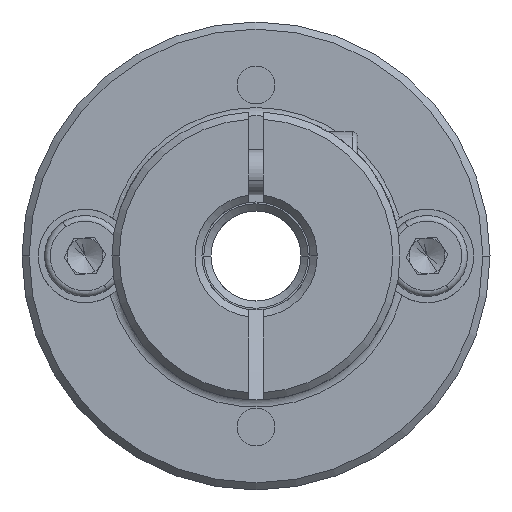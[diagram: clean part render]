
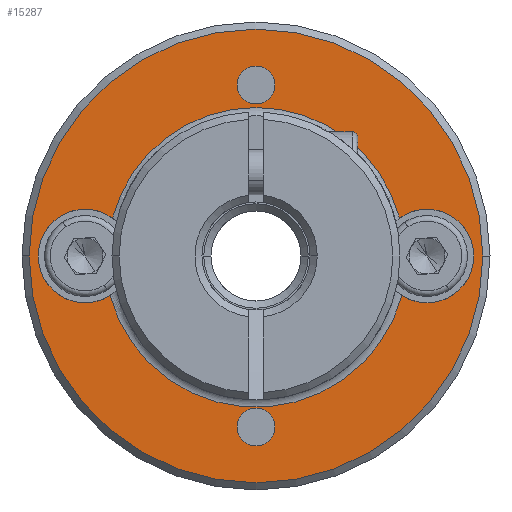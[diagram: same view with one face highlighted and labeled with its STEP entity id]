
A CAD part, front view. The second image highlights one B-rep face of the part: STEP entity #15287.
In plain terms, the highlighted planar face has unit normal (0, -1, 0).
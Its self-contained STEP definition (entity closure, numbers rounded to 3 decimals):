
#241 = CARTESIAN_POINT ( 'NONE',  ( -3.03, -8.355, 26. ) ) ;
#317 = AXIS2_PLACEMENT_3D ( 'NONE', #13250, #10317, #10182 ) ;
#384 = AXIS2_PLACEMENT_3D ( 'NONE', #17411, #4016, #14468 ) ;
#432 = CARTESIAN_POINT ( 'NONE',  ( -4.08, -8.355, 16.5 ) ) ;
#630 = AXIS2_PLACEMENT_3D ( 'NONE', #10789, #18132, #9402 ) ;
#796 = CIRCLE ( 'NONE', #14226, 1.05 ) ;
#1014 = PLANE ( 'NONE',  #3017 ) ;
#1163 = CARTESIAN_POINT ( 'NONE',  ( -1.98, -8.355, 35.5 ) ) ;
#1451 = VERTEX_POINT ( 'NONE', #432 ) ;
#2132 = CIRCLE ( 'NONE', #15676, 8.247 ) ;
#2546 = CARTESIAN_POINT ( 'NONE',  ( 6.47, -8.355, 26. ) ) ;
#2774 = EDGE_LOOP ( 'NONE', ( #6271, #6505 ) ) ;
#3017 = AXIS2_PLACEMENT_3D ( 'NONE', #5520, #17479, #7455 ) ;
#3380 = ORIENTED_EDGE ( 'NONE', *, *, #14569, .T. ) ;
#3596 = CARTESIAN_POINT ( 'NONE',  ( -3.03, -8.355, 26. ) ) ;
#3663 = DIRECTION ( 'NONE',  ( 1., 0., 0. ) ) ;
#3726 = ORIENTED_EDGE ( 'NONE', *, *, #14091, .T. ) ;
#4016 = DIRECTION ( 'NONE',  ( 0., -1., 0. ) ) ;
#4601 = DIRECTION ( 'NONE',  ( 1., 0., 0. ) ) ;
#4769 = CARTESIAN_POINT ( 'NONE',  ( -11.138, -8.355, 23.804 ) ) ;
#4794 = ORIENTED_EDGE ( 'NONE', *, *, #5720, .T. ) ;
#4857 = EDGE_CURVE ( 'NONE', #5175, #17098, #796, .T. ) ;
#4927 = DIRECTION ( 'NONE',  ( 1., 0., 0. ) ) ;
#5175 = VERTEX_POINT ( 'NONE', #1163 ) ;
#5188 = ORIENTED_EDGE ( 'NONE', *, *, #19010, .T. ) ;
#5192 = ORIENTED_EDGE ( 'NONE', *, *, #6369, .T. ) ;
#5466 = CIRCLE ( 'NONE', #317, 8.4 ) ;
#5520 = CARTESIAN_POINT ( 'NONE',  ( -3.03, -8.355, 26. ) ) ;
#5720 = EDGE_CURVE ( 'NONE', #9300, #12277, #9386, .T. ) ;
#5822 = CARTESIAN_POINT ( 'NONE',  ( -15.13, -8.355, 26. ) ) ;
#5899 = AXIS2_PLACEMENT_3D ( 'NONE', #12154, #12093, #4601 ) ;
#5905 = CARTESIAN_POINT ( 'NONE',  ( 9.07, -8.355, 26. ) ) ;
#6271 = ORIENTED_EDGE ( 'NONE', *, *, #15243, .T. ) ;
#6277 = DIRECTION ( 'NONE',  ( 0., 1., 0. ) ) ;
#6317 = AXIS2_PLACEMENT_3D ( 'NONE', #3596, #16988, #17048 ) ;
#6369 = EDGE_CURVE ( 'NONE', #9543, #16518, #5466, .T. ) ;
#6505 = ORIENTED_EDGE ( 'NONE', *, *, #15561, .T. ) ;
#6759 = ORIENTED_EDGE ( 'NONE', *, *, #9312, .T. ) ;
#6937 = CIRCLE ( 'NONE', #12864, 2.6 ) ;
#6989 = CARTESIAN_POINT ( 'NONE',  ( -12.53, -8.355, 26. ) ) ;
#6993 = AXIS2_PLACEMENT_3D ( 'NONE', #2546, #13050, #14437 ) ;
#7143 = EDGE_CURVE ( 'NONE', #12954, #18674, #14327, .T. ) ;
#7455 = DIRECTION ( 'NONE',  ( 1., 0., 0. ) ) ;
#7499 = CIRCLE ( 'NONE', #6993, 2.6 ) ;
#8307 = EDGE_CURVE ( 'NONE', #15168, #12954, #2132, .T. ) ;
#8543 = CIRCLE ( 'NONE', #12650, 1.05 ) ;
#8610 = CARTESIAN_POINT ( 'NONE',  ( 9.57, -8.355, 26. ) ) ;
#9142 = CARTESIAN_POINT ( 'NONE',  ( 5.078, -8.355, 23.804 ) ) ;
#9300 = VERTEX_POINT ( 'NONE', #8610 ) ;
#9312 = EDGE_CURVE ( 'NONE', #19114, #15168, #18692, .T. ) ;
#9386 = CIRCLE ( 'NONE', #384, 12.6 ) ;
#9402 = DIRECTION ( 'NONE',  ( 1., 0., 0. ) ) ;
#9543 = VERTEX_POINT ( 'NONE', #9142 ) ;
#9576 = VERTEX_POINT ( 'NONE', #18240 ) ;
#9690 = EDGE_CURVE ( 'NONE', #12277, #9300, #10006, .T. ) ;
#9775 = DIRECTION ( 'NONE',  ( 0., 1., 0. ) ) ;
#9989 = DIRECTION ( 'NONE',  ( 0., 1., 0. ) ) ;
#10006 = CIRCLE ( 'NONE', #6317, 12.6 ) ;
#10182 = DIRECTION ( 'NONE',  ( 1., 0., 0. ) ) ;
#10317 = DIRECTION ( 'NONE',  ( 0., 1., 0. ) ) ;
#10667 = DIRECTION ( 'NONE',  ( 0., 1., 0. ) ) ;
#10789 = CARTESIAN_POINT ( 'NONE',  ( -3.03, -8.355, 35.5 ) ) ;
#11444 = CARTESIAN_POINT ( 'NONE',  ( -3.03, -8.355, 16.5 ) ) ;
#12093 = DIRECTION ( 'NONE',  ( 0., 1., 0. ) ) ;
#12154 = CARTESIAN_POINT ( 'NONE',  ( 6.47, -8.355, 26. ) ) ;
#12277 = VERTEX_POINT ( 'NONE', #13074 ) ;
#12481 = DIRECTION ( 'NONE',  ( 1., 0., 0. ) ) ;
#12548 = CARTESIAN_POINT ( 'NONE',  ( -3.03, -8.355, 16.5 ) ) ;
#12650 = AXIS2_PLACEMENT_3D ( 'NONE', #11444, #16113, #12880 ) ;
#12864 = AXIS2_PLACEMENT_3D ( 'NONE', #18748, #9775, #3663 ) ;
#12880 = DIRECTION ( 'NONE',  ( 1., 0., 0. ) ) ;
#12929 = DIRECTION ( 'NONE',  ( 1., 0., 0. ) ) ;
#12954 = VERTEX_POINT ( 'NONE', #13576 ) ;
#12995 = FACE_BOUND ( 'NONE', #16168, .T. ) ;
#13050 = DIRECTION ( 'NONE',  ( 0., 1., 0. ) ) ;
#13074 = CARTESIAN_POINT ( 'NONE',  ( -15.63, -8.355, 26. ) ) ;
#13152 = EDGE_LOOP ( 'NONE', ( #3380, #6759, #16902, #14790, #5188, #5192 ) ) ;
#13250 = CARTESIAN_POINT ( 'NONE',  ( -3.03, -8.355, 26. ) ) ;
#13456 = CIRCLE ( 'NONE', #18675, 1.05 ) ;
#13555 = EDGE_LOOP ( 'NONE', ( #17659, #4794 ) ) ;
#13576 = CARTESIAN_POINT ( 'NONE',  ( 4.944, -8.355, 28.105 ) ) ;
#13706 = CARTESIAN_POINT ( 'NONE',  ( -3.03, -8.355, 35.5 ) ) ;
#14091 = EDGE_CURVE ( 'NONE', #17098, #5175, #15398, .T. ) ;
#14226 = AXIS2_PLACEMENT_3D ( 'NONE', #13706, #6277, #15291 ) ;
#14327 = CIRCLE ( 'NONE', #5899, 2.6 ) ;
#14419 = FACE_OUTER_BOUND ( 'NONE', #13555, .T. ) ;
#14437 = DIRECTION ( 'NONE',  ( 1., 0., 0. ) ) ;
#14468 = DIRECTION ( 'NONE',  ( 1., 0., 0. ) ) ;
#14559 = AXIS2_PLACEMENT_3D ( 'NONE', #6989, #9989, #12929 ) ;
#14569 = EDGE_CURVE ( 'NONE', #16518, #19114, #6937, .T. ) ;
#14790 = ORIENTED_EDGE ( 'NONE', *, *, #7143, .T. ) ;
#15115 = FACE_BOUND ( 'NONE', #13152, .T. ) ;
#15168 = VERTEX_POINT ( 'NONE', #18727 ) ;
#15243 = EDGE_CURVE ( 'NONE', #1451, #9576, #8543, .T. ) ;
#15287 = ADVANCED_FACE ( 'NONE', ( #14419, #18166, #12995, #15115 ), #1014, .T. ) ;
#15291 = DIRECTION ( 'NONE',  ( 1., 0., 0. ) ) ;
#15375 = DIRECTION ( 'NONE',  ( 0., 1., 0. ) ) ;
#15398 = CIRCLE ( 'NONE', #630, 1.05 ) ;
#15561 = EDGE_CURVE ( 'NONE', #9576, #1451, #13456, .T. ) ;
#15676 = AXIS2_PLACEMENT_3D ( 'NONE', #241, #10667, #4927 ) ;
#16113 = DIRECTION ( 'NONE',  ( 0., 1., 0. ) ) ;
#16168 = EDGE_LOOP ( 'NONE', ( #3726, #17380 ) ) ;
#16518 = VERTEX_POINT ( 'NONE', #4769 ) ;
#16902 = ORIENTED_EDGE ( 'NONE', *, *, #8307, .T. ) ;
#16988 = DIRECTION ( 'NONE',  ( 0., -1., 0. ) ) ;
#17048 = DIRECTION ( 'NONE',  ( 1., 0., 0. ) ) ;
#17098 = VERTEX_POINT ( 'NONE', #18054 ) ;
#17380 = ORIENTED_EDGE ( 'NONE', *, *, #4857, .T. ) ;
#17411 = CARTESIAN_POINT ( 'NONE',  ( -3.03, -8.355, 26. ) ) ;
#17479 = DIRECTION ( 'NONE',  ( 0., -1., 0. ) ) ;
#17659 = ORIENTED_EDGE ( 'NONE', *, *, #9690, .T. ) ;
#18054 = CARTESIAN_POINT ( 'NONE',  ( -4.08, -8.355, 35.5 ) ) ;
#18132 = DIRECTION ( 'NONE',  ( 0., 1., 0. ) ) ;
#18166 = FACE_BOUND ( 'NONE', #2774, .T. ) ;
#18240 = CARTESIAN_POINT ( 'NONE',  ( -1.98, -8.355, 16.5 ) ) ;
#18674 = VERTEX_POINT ( 'NONE', #5905 ) ;
#18675 = AXIS2_PLACEMENT_3D ( 'NONE', #12548, #15375, #12481 ) ;
#18692 = CIRCLE ( 'NONE', #14559, 2.6 ) ;
#18727 = CARTESIAN_POINT ( 'NONE',  ( -11.004, -8.355, 28.105 ) ) ;
#18748 = CARTESIAN_POINT ( 'NONE',  ( -12.53, -8.355, 26. ) ) ;
#19010 = EDGE_CURVE ( 'NONE', #18674, #9543, #7499, .T. ) ;
#19114 = VERTEX_POINT ( 'NONE', #5822 ) ;
